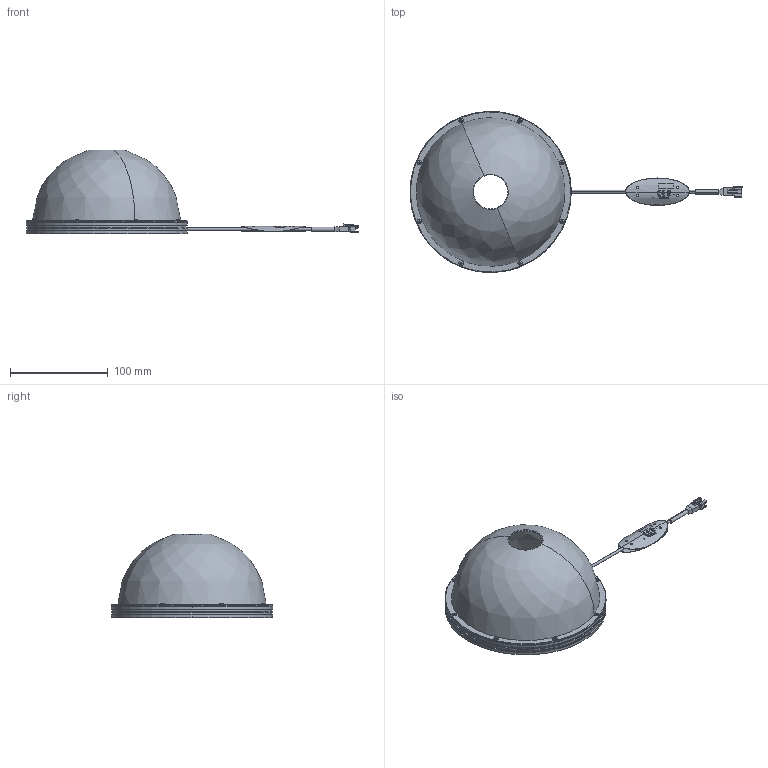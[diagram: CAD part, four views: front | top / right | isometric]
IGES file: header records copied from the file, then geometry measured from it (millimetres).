
Start section: 3D InterOp IGES (v. 2019 1.0.2), Spatial Corp. Copyright (c) 1999-2017.
Global section: file name: VDO-165_DRAWING_3D.iges; native system: Spatial Corp.; preprocessor: 3D InterOp ACIS/IGES; author: Noname; organization: Noname; date: 20230912.193344; units: millimetre
Bounding box: 339.75 x 165 x 85.96 mm (x, y, z)
Surface area: 145168 mm2 (no closed solid volume)
Topology: 0 solids, 0 shells, 793 faces, 4332 edges, 4251 vertices
Faces by surface type: extrusion 427, revolution 360, bspline 6
